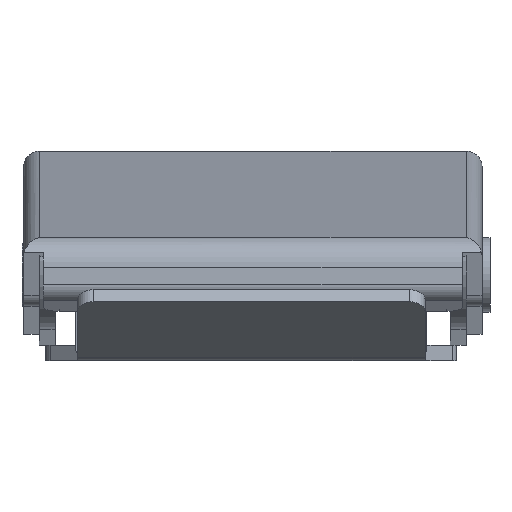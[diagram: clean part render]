
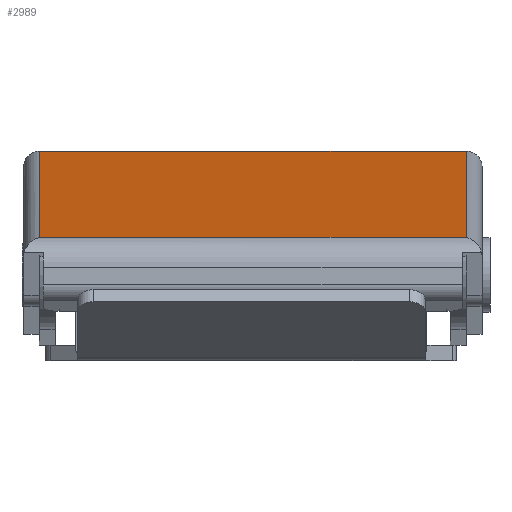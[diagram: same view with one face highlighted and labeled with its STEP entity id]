
A CAD part, left-side view. The second image highlights one B-rep face of the part: STEP entity #2989.
In plain terms, the highlighted planar face has unit normal (-0.167, 0, 0.986) as drawn and (0.205, 0.979, 0) by its records, which use the part's own axes.
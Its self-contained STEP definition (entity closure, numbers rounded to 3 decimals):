
#127=PLANE('',#3246);
#313=LINE('',#4865,#581);
#315=LINE('',#4878,#583);
#316=LINE('',#4880,#584);
#317=LINE('',#4881,#585);
#581=VECTOR('',#3881,27.);
#583=VECTOR('',#3885,32.598);
#584=VECTOR('',#3886,27.);
#585=VECTOR('',#3887,32.598);
#848=FACE_OUTER_BOUND('',#1040,.T.);
#1040=EDGE_LOOP('',(#2431,#2432,#2433,#2434));
#1425=VERTEX_POINT('',#4855);
#1426=VERTEX_POINT('',#4864);
#1428=VERTEX_POINT('',#4877);
#1429=VERTEX_POINT('',#4879);
#1786=EDGE_CURVE('',#1425,#1426,#313,.T.);
#1789=EDGE_CURVE('',#1428,#1425,#315,.T.);
#1790=EDGE_CURVE('',#1428,#1429,#316,.T.);
#1791=EDGE_CURVE('',#1426,#1429,#317,.T.);
#2431=ORIENTED_EDGE('',*,*,#1786,.F.);
#2432=ORIENTED_EDGE('',*,*,#1789,.F.);
#2433=ORIENTED_EDGE('',*,*,#1790,.T.);
#2434=ORIENTED_EDGE('',*,*,#1791,.F.);
#2989=ADVANCED_FACE('',(#848),#127,.T.);
#3246=AXIS2_PLACEMENT_3D('',#4876,#3883,#3884);
#3881=DIRECTION('',(0.,0.,1.));
#3883=DIRECTION('center_axis',(0.205,0.979,0.));
#3884=DIRECTION('ref_axis',(-0.979,0.205,0.));
#3885=DIRECTION('',(0.979,-0.205,0.));
#3886=DIRECTION('',(0.,0.,1.));
#3887=DIRECTION('',(-0.979,0.205,0.));
#4855=CARTESIAN_POINT('',(50.909,4.332,-13.5));
#4864=CARTESIAN_POINT('',(50.909,4.332,13.5));
#4865=CARTESIAN_POINT('',(50.909,4.332,0.));
#4876=CARTESIAN_POINT('Origin',(52.5,4.,0.));
#4877=CARTESIAN_POINT('',(19.,11.,-13.5));
#4878=CARTESIAN_POINT('',(29.17,8.875,-13.5));
#4879=CARTESIAN_POINT('',(19.,11.,13.5));
#4880=CARTESIAN_POINT('',(19.,11.,0.));
#4881=CARTESIAN_POINT('',(29.17,8.875,13.5));
